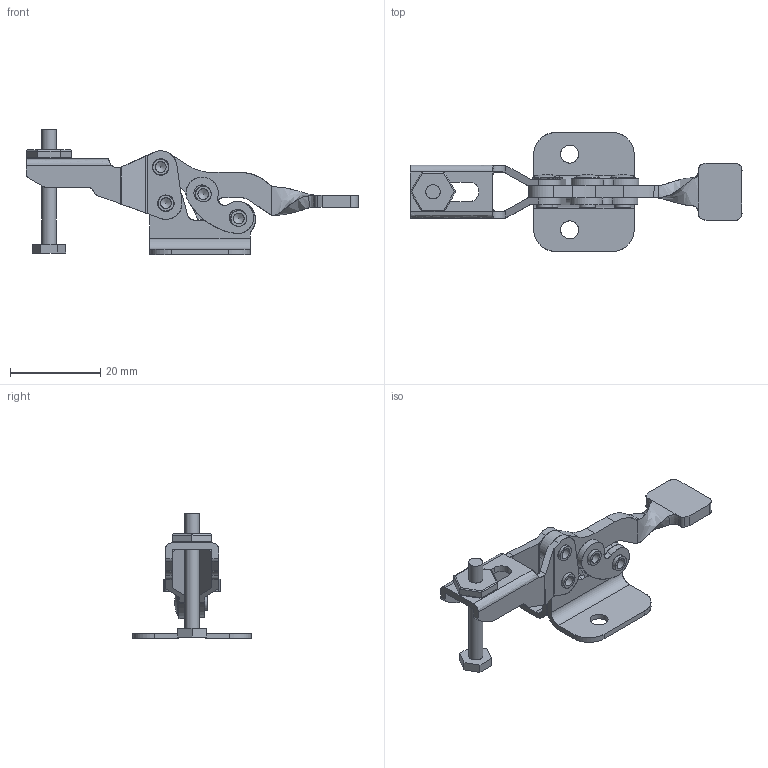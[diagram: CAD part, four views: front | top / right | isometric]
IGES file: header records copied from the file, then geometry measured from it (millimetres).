
Global section: file name: C:\T&M Tech\Carbide Tech\Work\100 series\h-100\h-100.igs; native system: Unigraphics Version X V2.0; preprocessor: Unigraphics NX IGES V2.0; date: 20041216.110202; units: inch
Bounding box: 73.48 x 26.32 x 27.71 mm (x, y, z)
Surface area: 6507.5 mm2 (no closed solid volume)
Topology: 0 solids, 0 shells, 234 faces, 2870 edges, 2831 vertices
Faces by surface type: revolution 124, extrusion 100, bspline 8, offset 2
